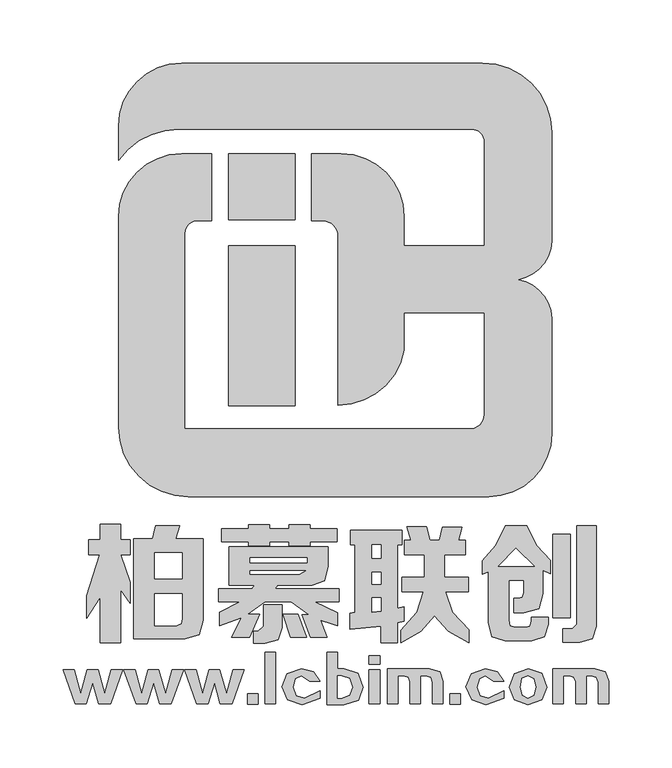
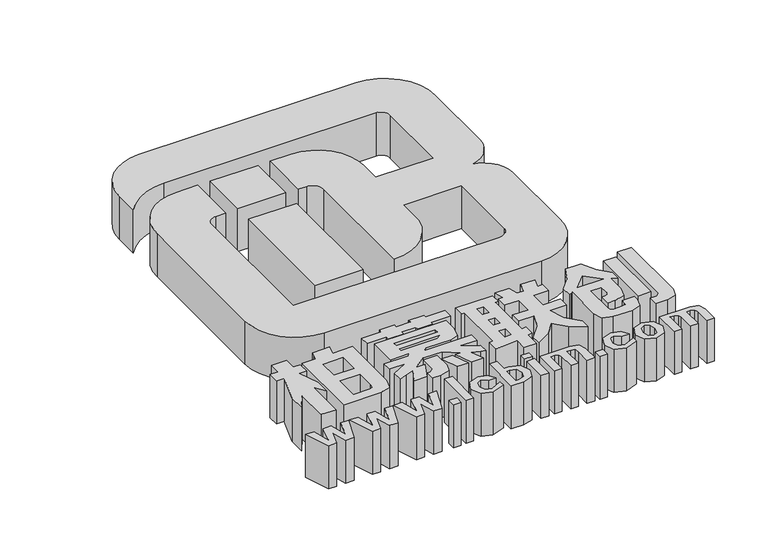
"""IFC4 building model written with IfcOpenShell, lengths in millimetres: proxy geometry, 柏慕联创LOGO竖向小 : 柏慕联创LOGO竖向小."""

from ifc_helpers import new_model, si_unit, point, frame_2d, origin, origin_with_axes, place, context, project, spatial, polyline, circle_curve, trimmed, segment, composite_curve, outline, extrude, source, transform, mapped, element, save


def generic_models_998ec82f(model_context):
    return source(origin(), model_context, "Body", "SweptSolid", [
        extrude(outline(polyline([(-171.2328062, -137.024483), (-180.8218966, -164.2038079), (-190.2355234, -164.2038079), (-194.8589915, -147.5084382), (-200.0088507, -164.2038079), (-208.8960864, -164.2038079), (-218.4851768, -137.024483), (-209.4224774, -137.024483), (-204.2726182, -156.0359733), (-199.1227591, -137.024483), (-190.7706876, -137.024483), (-185.4453647, -156.0359733), (-180.2867324, -137.024483), (-171.2328062, -137.024483)])), origin_with_axes(), (0.0, 0.0, 1.0), 50.0),
        extrude(outline(polyline([(-122.9451998, -137.024483), (-132.5342903, -164.2038079), (-141.947917, -164.2038079), (-146.5713851, -147.5084382), (-151.7212443, -164.2038079), (-160.60848, -164.2038079), (-170.1975704, -137.024483), (-161.1348711, -137.024483), (-155.9850119, -156.0359733), (-150.8351527, -137.024483), (-142.4830812, -137.024483), (-137.1577584, -156.0359733), (-131.999126, -137.024483), (-122.9451998, -137.024483)])), origin_with_axes(), (0.0, 0.0, 1.0), 50.0),
        extrude(outline(polyline([(-74.6575935, -137.024483), (-84.2466839, -164.2038079), (-93.6603106, -164.2038079), (-98.2837788, -147.5084382), (-103.4336379, -164.2038079), (-112.3208736, -164.2038079), (-121.9099641, -137.024483), (-112.8472647, -137.024483), (-107.6974055, -156.0359733), (-102.5475463, -137.024483), (-94.1954749, -137.024483), (-88.870152, -156.0359733), (-83.7115196, -137.024483), (-74.6575935, -137.024483)])), origin_with_axes(), (0.0, 0.0, 1.0), 50.0),
        extrude(outline(polyline([(-63.6735667, -164.5635085), (-72.2011018, -164.5635085), (-72.2011018, -156.211437), (-63.6735667, -156.211437), (-63.6735667, -164.5635085)])), origin_with_axes(), (0.0, 0.0, 1.0), 50.0),
        extrude(outline(polyline([(-49.6978841, -164.0283442), (-58.2254193, -164.0283442), (-58.2254193, -123.5225523), (-49.6978841, -123.5225523), (-49.6978841, -164.0283442)])), origin_with_axes(), (0.0, 0.0, 1.0), 50.0),
        extrude(outline(polyline([(-14.6665592, -146.262646), (-23.0186307, -146.262646), (-29.2300452, -141.8234148), (-34.2088273, -144.3084192), (-35.9853971, -151.0615778), (-33.6758563, -157.7204247), (-26.747234, -159.9400403), (-14.6665592, -153.9040895), (-14.6665592, -159.9400403), (-28.8791178, -165.0986727), (-40.2052987, -161.1441599), (-44.6883959, -150.7018773), (-40.5562261, -140.2223086), (-29.2300452, -136.4893187), (-19.8164184, -138.9326505), (-14.6665592, -146.262646)])), origin_with_axes(), (0.0, 0.0, 1.0), 50.0),
        extrude(outline(polyline([(4.3098384, -164.9144358), (-9.0166285, -164.9144358), (-9.0166285, -123.3470886), (-0.4890934, -123.3470886), (-0.4890934, -136.313855), (4.3098384, -136.313855), (15.7654238, -139.9569198), (19.5839523, -150.8861141), (15.8531556, -161.4994738), (4.3098384, -164.9144358)]), holes=[polyline([(2.528882, -141.8234148), (-0.4890934, -141.8234148), (-0.4890934, -159.7645767), (2.7043457, -159.7645767), (8.9683993, -157.5888269), (11.0564171, -151.0615778), (9.0122652, -144.0452237), (2.528882, -141.8234148)])]), origin_with_axes(), (0.0, 0.0, 1.0), 50.0),
        extrude(outline(polyline([(32.8402337, -132.9361791), (24.3126986, -132.9361791), (24.3126986, -126.0141367), (32.8402337, -126.0141367), (32.8402337, -132.9361791)])), origin_with_axes(), (0.0, 0.0, 1.0), 50.0),
        extrude(outline(polyline([(32.8402337, -164.2038079), (24.3126986, -164.2038079), (24.3126986, -137.024483), (32.8402337, -137.024483), (32.8402337, -164.2038079)])), origin_with_axes(), (0.0, 0.0, 1.0), 50.0),
        extrude(outline(polyline([(83.1544457, -164.2038079), (74.8023742, -164.2038079), (74.8023742, -147.1487376), (73.2933865, -143.1547455), (69.1173508, -141.8234148), (65.2045106, -141.8234148), (65.2045106, -164.2038079), (56.8612123, -164.2038079), (56.8612123, -146.7978103), (55.5715542, -143.0670136), (51.70258, -141.8234148), (47.2633487, -141.8234148), (47.2633487, -164.2038079), (38.9112773, -164.2038079), (38.9112773, -136.4893187), (72.1353262, -136.4893187), (80.5751295, -138.8010528), (83.1544457, -146.4381097), (83.1544457, -164.2038079)])), origin_with_axes(), (0.0, 0.0, 1.0), 50.0),
        extrude(outline(polyline([(96.9107986, -164.5635085), (88.3832635, -164.5635085), (88.3832635, -156.211437), (96.9107986, -156.211437), (96.9107986, -164.5635085)])), origin_with_axes(), (0.0, 0.0, 1.0), 50.0),
        extrude(outline(polyline([(131.3192274, -146.262646), (122.967156, -146.262646), (116.7557415, -141.8234148), (111.7769594, -144.3084192), (110.0003896, -151.0615778), (112.3099304, -157.7204247), (119.2385527, -159.9400403), (131.3192274, -153.9040895), (131.3192274, -159.9400403), (117.1066689, -165.0986727), (105.780488, -161.1441599), (101.2973908, -150.7018773), (105.4295606, -140.2223086), (116.7557415, -136.4893187), (126.1693683, -138.9326505), (131.3192274, -146.262646)])), origin_with_axes(), (0.0, 0.0, 1.0), 50.0),
        extrude(outline(polyline([(165.3942753, -150.8861141), (161.3958965, -161.1441599), (150.4710888, -164.9144358), (139.6340129, -161.0520414), (135.5479023, -150.8861141), (139.6778788, -140.2245019), (150.6465525, -136.313855), (161.4397624, -140.1367701), (165.3942753, -150.8861141)]), holes=[polyline([(156.8667401, -150.8861141), (155.1800954, -144.1768215), (150.4710888, -141.8234148), (145.805948, -144.0890896), (144.2509011, -150.8861141), (145.8936799, -157.4572292), (150.4710888, -159.7645767), (155.2678273, -157.544961), (156.8667401, -150.8861141)])]), origin_with_axes(), (0.0, 0.0, 1.0), 50.0),
        extrude(outline(polyline([(214.5416537, -164.2038079), (206.1895822, -164.2038079), (206.1895822, -147.1487376), (204.6805945, -143.1547455), (200.5045588, -141.8234148), (196.5917186, -141.8234148), (196.5917186, -164.2038079), (188.2484203, -164.2038079), (188.2484203, -146.7978103), (186.9587623, -143.0670136), (183.089788, -141.8234148), (178.6505567, -141.8234148), (178.6505567, -164.2038079), (170.2984853, -164.2038079), (170.2984853, -136.4893187), (203.5225342, -136.4893187), (211.9623375, -138.8010528), (214.5416537, -146.4381097), (214.5416537, -164.2038079)])), origin_with_axes(), (0.0, 0.0, 1.0), 50.0),
        extrude(outline(polyline([(-162.3703916, -112.8083187), (-162.3703916, -33.1778848), (-147.4710181, -33.1778848), (-145.8667787, -26.2796553), (-145.064659, -23.0310705), (-126.1346339, -23.0310705), (-128.9621058, -33.1778848), (-107.2246618, -33.1778848), (-107.2246618, -98.1094751), (-110.6487103, -109.3341377), (-121.7229755, -112.8083187), (-162.3703916, -112.8083187)]), holes=[polyline([(-145.7264077, -44.5679846), (-145.7264077, -65.0621431), (-123.8686457, -65.0621431), (-123.8686457, -44.5679846), (-145.7264077, -44.5679846)]), polyline([(-123.8686457, -96.8461365), (-123.8686457, -76.8533028), (-145.7264077, -76.8533028), (-145.7264077, -102.2604445), (-128.2401981, -102.2604445), (-124.7509774, -100.9068675), (-123.8686457, -96.8461365)])]), origin_with_axes(), (0.0, 0.0, 1.0), 50.0),
        extrude(outline(polyline([(-198.0446656, -46.0519061), (-198.0446656, -34.2607464), (-189.1210839, -34.2607464), (-189.1210839, -21.667467), (-172.8781598, -21.667467), (-172.8781598, -34.2607464), (-165.1577576, -34.2607464), (-165.1577576, -46.0519061), (-172.8781598, -46.0519061), (-165.1577576, -67.9898801), (-165.1577576, -84.633864), (-172.8781598, -73.664877), (-172.8781598, -115.8964796), (-189.1210839, -115.8964796), (-189.1210839, -79.7609868), (-199.668958, -96.4049707), (-199.668958, -78.5377542), (-189.5221437, -46.0519061), (-198.0446656, -46.0519061)])), origin_with_axes(), (0.0, 0.0, 1.0), 50.0),
        extrude(outline(polyline([(-32.0860982, -93.2767038), (-25.1878687, -111.5449801), (-37.7811481, -111.5449801), (-43.8772579, -93.2767038), (-32.0860982, -93.2767038)])), origin_with_axes(), (0.0, 0.0, 1.0), 50.0),
        extrude(outline(polyline([(-59.5386452, -85.7969375), (-44.4989007, -85.7969375), (-44.4989007, -104.0652139), (-47.7524987, -113.4099085), (-58.3154126, -116.2574334), (-67.2590474, -116.2574334), (-67.2590474, -106.511679), (-63.6094027, -106.511679), (-59.5386452, -102.8620343), (-59.5386452, -85.7969375)])), origin_with_axes(), (0.0, 0.0, 1.0), 50.0),
        extrude(outline(polyline([(-71.2495929, -38.8528817), (-71.2495929, -35.6042969), (-92.7664541, -35.6042969), (-92.7664541, -25.4574826), (-71.2495929, -25.4574826), (-71.2495929, -22.2088978), (-54.605609, -22.2088978), (-54.605609, -25.4574826), (-39.1648046, -25.4574826), (-39.1648046, -22.2088978), (-22.5208207, -22.2088978), (-22.5208207, -25.4574826), (-1.0039596, -25.4574826), (-1.0039596, -35.6042969), (-22.5208207, -35.6042969), (-22.5208207, -38.8528817), (-39.1648046, -38.8528817), (-39.1648046, -35.6042969), (-54.605609, -35.6042969), (-54.605609, -38.8528817), (-71.2495929, -38.8528817)])), origin_with_axes(), (0.0, 0.0, 1.0), 50.0),
        extrude(outline(polyline([(-94.3506405, -102.3206035), (-94.3506405, -91.5120405), (-78.0074514, -83.0897835), (-95.1728132, -83.0897835), (-95.1728132, -72.9429692), (-68.5223859, -72.9429692), (-66.4769807, -70.0954443), (-86.6502913, -70.0954443), (-86.6502913, -39.7352134), (-8.4035139, -39.7352134), (-8.4035139, -55.3163887), (-11.0906149, -66.8017402), (-20.7561574, -70.0954443), (-48.3490753, -70.0954443), (-50.4145335, -72.9429692), (0.5200679, -72.9429692), (0.5200679, -83.0897835), (-19.111812, -83.0897835), (-0.6831117, -91.9131003), (-0.6831117, -102.3206035), (-5.5559889, -100.7163641), (-14.1787758, -97.9089451), (-8.8246267, -111.5449801), (-21.9994429, -111.5449801), (-28.9979373, -93.5173397), (-23.2226755, -93.5173397), (-37.6407772, -83.0897835), (-58.2352007, -83.0897835), (-72.2321896, -93.2566508), (-62.3460642, -93.2566508), (-70.5878442, -111.5449801), (-84.584833, -111.5449801), (-76.7641659, -95.9236989), (-86.6502913, -99.5131845), (-94.3506405, -102.3206035)]), holes=[polyline([(-30.6222298, -61.5528694), (-26.1504124, -58.8056094), (-70.0063074, -58.8056094), (-70.0063074, -61.5528694), (-30.6222298, -61.5528694)]), polyline([(-70.0063074, -48.2777883), (-70.0063074, -52.3084398), (-25.0474978, -52.3084398), (-25.0474978, -48.2777883), (-70.0063074, -48.2777883)])]), origin_with_axes(), (0.0, 0.0, 1.0), 50.0),
        extrude(outline(polyline([(9.4837556, -38.151027), (9.4837556, -26.7609271), (50.3317017, -26.7609271), (50.3317017, -38.151027), (47.0831169, -38.151027), (47.0831169, -88.5040916), (51.9559941, -87.280859), (51.9559941, -98.6509059), (47.0831169, -99.8741384), (47.0831169, -115.7160026), (33.6877178, -115.7160026), (33.6877178, -102.7216634), (9.0826957, -105.1480755), (9.0826957, -92.5748491), (11.108048, -92.1537362), (13.1534533, -92.1537362), (13.1534533, -38.151027), (9.4837556, -38.151027)]), holes=[polyline([(26.5488524, -91.6724644), (33.6877178, -90.8502917), (33.6877178, -80.3024176), (26.5488524, -80.3024176), (26.5488524, -91.6724644)]), polyline([(26.5488524, -59.7681531), (26.5488524, -69.3133776), (33.6877178, -69.3133776), (33.6877178, -59.7681531), (26.5488524, -59.7681531)]), polyline([(26.5488524, -38.151027), (26.5488524, -48.7791131), (33.6877178, -48.7791131), (33.6877178, -38.151027), (26.5488524, -38.151027)])]), origin_with_axes(), (0.0, 0.0, 1.0), 50.0),
        extrude(outline(polyline([(52.5776369, -45.8513761), (52.5776369, -34.4612763), (57.4505141, -34.4612763), (54.6029891, -23.8933492), (70.0237405, -23.8933492), (72.4702056, -34.4612763), (80.1705548, -34.4612763), (82.6170199, -24.294409), (98.0578243, -24.294409), (97.6367114, -25.9187014), (95.2102993, -34.4612763), (100.8852962, -34.4612763), (100.8852962, -45.8513761), (84.2413123, -45.8513761), (84.2413123, -63.9792815), (103.3317613, -63.9792815), (103.3317613, -75.3693814), (85.063485, -75.3693814), (90.5429652, -91.6123054), (103.7328212, -105.4087644), (103.7328212, -115.9766915), (87.2843539, -106.7372752), (76.1198503, -94.4598304), (65.6622146, -106.5367452), (49.7301119, -115.9766915), (49.7301119, -105.8298772), (62.3183781, -91.7175836), (67.5973284, -75.3693814), (50.5322316, -75.3693814), (50.5322316, -63.9792815), (68.3994481, -63.9792815), (68.3994481, -45.8513761), (52.5776369, -45.8513761)])), origin_with_axes(), (0.0, 0.0, 1.0), 50.0),
        extrude(outline(polyline([(132.3484417, -23.0110175), (149.4736975, -23.0110175), (157.2291924, -38.3465436), (168.2232456, -50.2229285), (168.2232456, -61.1919155), (162.1271359, -58.3443906), (162.1271359, -77.0337798), (158.978816, -88.7096347), (147.0873913, -92.0534713), (139.3669892, -92.0534713), (139.3669892, -80.6633714), (142.615574, -80.6633714), (146.1699669, -79.5404038), (147.0873913, -76.1715011), (147.0873913, -66.3856406), (135.1358077, -66.3856406), (135.1358077, -97.8287332), (136.1184044, -102.3155903), (139.90842, -103.5438361), (148.6715778, -103.5438361), (152.150772, -102.5261467), (153.0431302, -98.6709588), (153.0431302, -95.422374), (166.4385293, -95.422374), (166.4385293, -101.097371), (163.4155406, -111.0536818), (153.544455, -114.0917102), (132.1880178, -114.0917102), (122.0061108, -110.9333639), (118.8928836, -99.8139794), (118.8928836, -59.5676231), (116.4464185, -60.7908557), (114.4210663, -61.5929754), (114.4210663, -50.6239884), (125.0090464, -38.6473385), (132.3484417, -23.0110175)]), holes=[polyline([(140.8910166, -40.777969), (127.0945576, -54.9955408), (155.5096483, -54.9955408), (140.8910166, -40.777969)])]), origin_with_axes(), (0.0, 0.0, 1.0), 50.0),
        extrude(outline(polyline([(170.1683859, -96.1041758), (170.1683859, -29.909247), (183.9648449, -29.909247), (183.9648449, -96.1041758), (170.1683859, -96.1041758)])), origin_with_axes(), (0.0, 0.0, 1.0), 50.0),
        extrude(outline(polyline([(189.238782, -23.2115474), (204.6795863, -23.2115474), (204.6795863, -102.8018753), (201.6415579, -112.4423516), (191.6852471, -115.3751017), (178.269795, -115.3751017), (178.269795, -104.8272276), (185.5891373, -104.8272276), (189.238782, -101.1775829), (189.238782, -23.2115474)])), origin_with_axes(), (0.0, 0.0, 1.0), 50.0),
        extrude(outline(polyline([(-34.4600812, 271.763146), (-34.4600812, 219.4391331), (-87.041403, 219.4391331), (-87.041403, 271.763146), (-34.4600812, 271.763146)])), origin_with_axes(), (0.0, 0.0, 1.0), 50.0),
        extrude(outline(polyline([(-34.4600812, 198.9529993), (-34.4600812, 72.262435), (-87.041403, 72.262435), (-87.041403, 198.9529993), (-34.4600812, 198.9529993)])), origin_with_axes(), (0.0, 0.0, 1.0), 50.0),
        extrude(outline(composite_curve([segment(trimmed(circle_curve(frame_2d((114.375, 288.8469612)), 55.0), [point((114.375, 343.8469612))], [point((169.375, 288.8469612))], False, "CARTESIAN"), True, "CONTINUOUS"), segment(polyline([(169.375, 288.8469612), (169.375, 202.6063108)]), True, "CONTINUOUS"), segment(trimmed(circle_curve(frame_2d((136.673592, 204.2375584)), 32.7420685), [point((169.375, 202.6063108))], [point((142.8700855, 172.0871848))], False, "CARTESIAN"), True, "CONTINUOUS"), segment(trimmed(circle_curve(frame_2d((136.673592, 139.9368113)), 32.7420685), [point((142.8700855, 172.0871848))], [point((169.375, 141.5680588))], False, "CARTESIAN"), True, "CONTINUOUS"), segment(polyline([(169.375, 141.5680588), (169.375, 50.0)]), True, "CONTINUOUS"), segment(trimmed(circle_curve(frame_2d((119.375, 50.0)), 50.0), [point((169.375, 50.0))], [point((119.375, 0.0))], False, "CARTESIAN"), True, "CONTINUOUS"), segment(polyline([(119.375, 0.0), (-119.375, 0.0)]), True, "CONTINUOUS"), segment(trimmed(circle_curve(frame_2d((-119.375, 55.0)), 55.0), [point((-119.375, 0.0))], [point((-174.375, 55.0))], False, "CARTESIAN"), True, "CONTINUOUS"), segment(polyline([(-174.375, 55.0), (-174.375, 221.948883)]), True, "CONTINUOUS"), segment(trimmed(circle_curve(frame_2d((-124.375, 221.948883)), 50.0), [point((-174.375, 221.948883))], [point((-124.375, 271.948883))], False, "CARTESIAN"), True, "CONTINUOUS"), segment(polyline([(-124.375, 271.948883), (-100.625, 271.948883), (-100.625, 218.823883), (-111.875, 218.823883)]), True, "CONTINUOUS"), segment(trimmed(circle_curve(frame_2d((-111.875, 208.823883)), 10.0), [point((-111.875, 218.823883))], [point((-121.875, 208.823883))], True, "CARTESIAN"), True, "CONTINUOUS"), segment(polyline([(-121.875, 208.823883), (-121.875, 53.8563108), (104.3726357, 53.8563108)]), True, "CONTINUOUS"), segment(trimmed(circle_curve(frame_2d((104.3726357, 65.371089)), 11.5147782), [point((104.3726357, 53.8563108))], [point((115.8874139, 65.371089))], True, "CARTESIAN"), True, "CONTINUOUS"), segment(polyline([(115.8874139, 65.371089), (115.8874139, 146.0276171), (52.2413511, 146.0276171), (52.2413511, 116.0276171)]), True, "CONTINUOUS"), segment(trimmed(circle_curve(frame_2d((-0.1271223, 125.9018493)), 53.2912514), [point((52.2413511, 116.0276171))], [point((-0.2281505, 72.6106937))], False, "CARTESIAN"), True, "CONTINUOUS"), segment(polyline([(-0.2281505, 72.6106937), (-0.2281505, 206.6864649)]), True, "CONTINUOUS"), segment(trimmed(circle_curve(frame_2d((-12.2757216, 206.6864649)), 12.0475711), [point((-0.2281505, 206.6864649))], [point((-12.2757216, 218.734036))], True, "CARTESIAN"), True, "CONTINUOUS"), segment(polyline([(-12.2757216, 218.734036), (-21.458758, 218.734036), (-21.458758, 271.948883), (2.2413511, 271.948883)]), True, "CONTINUOUS"), segment(trimmed(circle_curve(frame_2d((2.2413511, 221.948883)), 50.0), [point((2.2413511, 271.948883))], [point((52.2413511, 221.948883))], False, "CARTESIAN"), True, "CONTINUOUS"), segment(polyline([(52.2413511, 221.948883), (52.2413511, 198.873774), (115.8874139, 198.873774), (115.8874139, 281.278428)]), True, "CONTINUOUS"), segment(trimmed(circle_curve(frame_2d((105.8874139, 281.278428)), 10.0), [point((115.8874139, 281.278428))], [point((105.8874139, 291.278428))], True, "CARTESIAN"), True, "CONTINUOUS"), segment(polyline([(105.8874139, 291.278428), (-127.0104514, 291.278428)]), True, "CONTINUOUS"), segment(trimmed(circle_curve(frame_2d((-127.0104514, 233.0092079)), 58.2692202), [point((-127.0104514, 291.278428))], [point((-174.375, 266.948883))], True, "CARTESIAN"), True, "CONTINUOUS"), segment(polyline([(-174.375, 266.948883), (-174.375, 293.8469612)]), True, "CONTINUOUS"), segment(trimmed(circle_curve(frame_2d((-124.375, 293.8469612)), 50.0), [point((-174.375, 293.8469612))], [point((-124.375, 343.8469612))], False, "CARTESIAN"), True, "CONTINUOUS"), segment(polyline([(-124.375, 343.8469612), (114.375, 343.8469612)]), True, "CONTINUOUS")], self_intersect=False)), origin_with_axes(), (0.0, 0.0, 1.0), 50.0),
    ])


if __name__ == "__main__":
    model = new_model("IFC4")
    model_context = context("Model", 3, world=origin())
    ifc_project = project(units=[si_unit("LENGTHUNIT", "METRE", prefix="MILLI")], contexts=[model_context])
    site = spatial("IfcSite", under=ifc_project)
    building = spatial("IfcBuilding", under=site)
    placement = place(None, origin())
    generic_models_shape = generic_models_998ec82f(model_context)
    element("IfcBuildingElementProxy", 1, Name="柏慕联创LOGO竖向小 : 柏慕联创LOGO竖向小", ObjectType="柏慕联创LOGO竖向小 : 柏慕联创LOGO竖向小", at=placement, inside=building, context=model_context, shape_type="MappedRepresentation", body=[
        mapped(generic_models_shape, transform((0.0, 0.0, 0.0), x_axis=(1.0, 0.0, 0.0), y_axis=(0.0, 1.0, 0.0), z_axis=(0.0, 0.0, 1.0))),
    ])
    save(model, "model.ifc")
